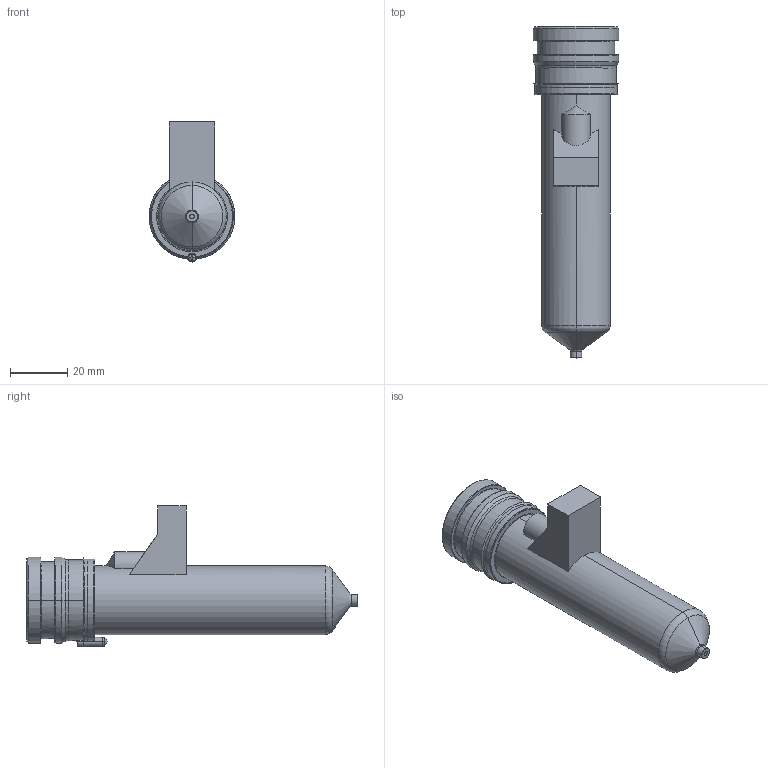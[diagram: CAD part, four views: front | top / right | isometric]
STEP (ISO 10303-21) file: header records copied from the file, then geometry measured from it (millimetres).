
FILE_DESCRIPTION((''),'2;1');
FILE_NAME('MPN-10-29-VP4-096-M','2026-02-05T12:58:43',('UPTIO'),('Thermoplay S.p.A.'),'CREO PARAMETRIC BY PTC INC, 2023494','CREO PARAMETRIC BY PTC INC, 2023494','');
FILE_SCHEMA(('CONFIG_CONTROL_DESIGN','SHAPE_APPEARANCE_LAYERS_GROUPS'));
Length unit declared in the file: millimetre
Products named in the file (1): MPN-10-29-VP4-096-M
Bounding box: 30 x 116.1 x 49 mm (x, y, z)
Volume: 37106.3 mm3; surface area: 38292.1 mm2
Topology: 3 solids, 5 shells, 573 faces, 1478 edges, 910 vertices
Faces by surface type: cylinder 177, plane 159, bspline 92, torus 69, cone 66, sphere 6, extrusion 4
Entity records: 28965 total; most frequent: CARTESIAN_POINT 12569, ORIENTED_EDGE 2942, DIRECTION 2624, EDGE_CURVE 1471, AXIS2_PLACEMENT_3D 1038, VERTEX_POINT 910, EDGE_LOOP 601, FACE_OUTER_BOUND 573
